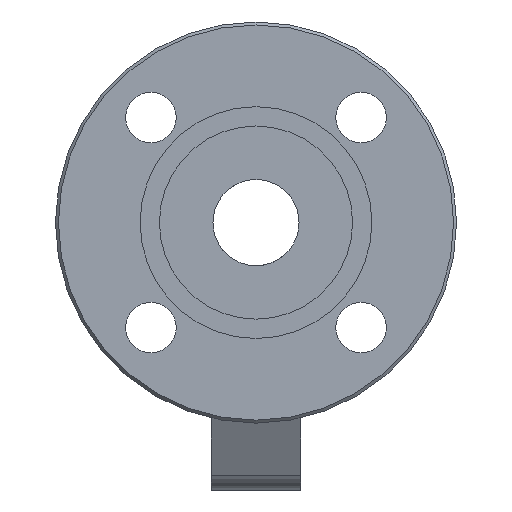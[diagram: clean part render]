
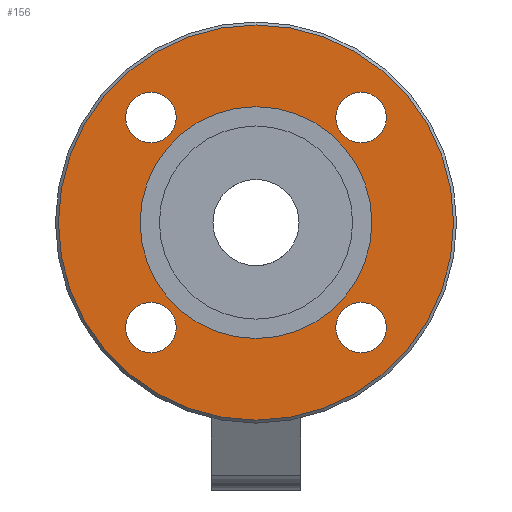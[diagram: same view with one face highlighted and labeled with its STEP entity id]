
A CAD part, left-side view. The second image highlights one B-rep face of the part: STEP entity #156.
In plain terms, the highlighted planar face has unit normal (-1, 0, 0).
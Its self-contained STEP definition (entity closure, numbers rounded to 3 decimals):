
#156=ADVANCED_FACE('',(#1229,#1231,#1233,#1235,#1237,#1239),#1241,.T.);
#1229=FACE_BOUND('',#1230,.T.);
#1230=EDGE_LOOP('',(#2138));
#1231=FACE_BOUND('',#1232,.T.);
#1232=EDGE_LOOP('',(#2139));
#1233=FACE_BOUND('',#1234,.T.);
#1234=EDGE_LOOP('',(#2140));
#1235=FACE_BOUND('',#1236,.T.);
#1236=EDGE_LOOP('',(#2141));
#1237=FACE_BOUND('',#1238,.T.);
#1238=EDGE_LOOP('',(#2142));
#1239=FACE_OUTER_BOUND('',#1240,.T.);
#1240=EDGE_LOOP('',(#2143));
#1241=PLANE('',#1242);
#1242=AXIS2_PLACEMENT_3D('',#1243,#1244,#1245);
#1243=CARTESIAN_POINT('',(-63.,0.,0.));
#1244=DIRECTION('',(-1.,0.,0.));
#1245=DIRECTION('',(0.,1.,0.));
#2138=ORIENTED_EDGE('',*,*,#2920,.T.);
#2139=ORIENTED_EDGE('',*,*,#2921,.T.);
#2140=ORIENTED_EDGE('',*,*,#2923,.T.);
#2141=ORIENTED_EDGE('',*,*,#2925,.T.);
#2142=ORIENTED_EDGE('',*,*,#2942,.T.);
#2143=ORIENTED_EDGE('',*,*,#2943,.T.);
#2920=EDGE_CURVE('',#3277,#3277,#3279,.T.);
#2921=EDGE_CURVE('',#3280,#3280,#3281,.T.);
#2923=EDGE_CURVE('',#3283,#3283,#3284,.T.);
#2925=EDGE_CURVE('',#3286,#3286,#3287,.T.);
#2942=EDGE_CURVE('',#3317,#3317,#3318,.T.);
#2943=EDGE_CURVE('',#3319,#3319,#3320,.T.);
#3277=VERTEX_POINT('',#4432);
#3279=CIRCLE('',#4436,8.5);
#3280=VERTEX_POINT('',#4440);
#3281=CIRCLE('',#4441,8.5);
#3283=VERTEX_POINT('',#4448);
#3284=CIRCLE('',#4449,8.5);
#3286=VERTEX_POINT('',#4456);
#3287=CIRCLE('',#4457,8.5);
#3317=VERTEX_POINT('',#4528);
#3318=CIRCLE('',#4529,39.);
#3319=VERTEX_POINT('',#4533);
#3320=CIRCLE('',#4534,66.5);
#4432=CARTESIAN_POINT('',(-63.,-35.355,43.855));
#4436=AXIS2_PLACEMENT_3D('',#4437,#4438,#4439);
#4437=CARTESIAN_POINT('',(-63.,-35.355,35.355));
#4438=DIRECTION('',(1.,0.,0.));
#4439=DIRECTION('',(0.,0.,1.));
#4440=CARTESIAN_POINT('',(-63.,-43.855,-35.355));
#4441=AXIS2_PLACEMENT_3D('',#4442,#4443,#4444);
#4442=CARTESIAN_POINT('',(-63.,-35.355,-35.355));
#4443=DIRECTION('',(1.,0.,0.));
#4444=DIRECTION('',(0.,-1.,0.));
#4448=CARTESIAN_POINT('',(-63.,35.355,-43.855));
#4449=AXIS2_PLACEMENT_3D('',#4450,#4451,#4452);
#4450=CARTESIAN_POINT('',(-63.,35.355,-35.355));
#4451=DIRECTION('',(1.,0.,0.));
#4452=DIRECTION('',(0.,0.,-1.));
#4456=CARTESIAN_POINT('',(-63.,43.855,35.355));
#4457=AXIS2_PLACEMENT_3D('',#4458,#4459,#4460);
#4458=CARTESIAN_POINT('',(-63.,35.355,35.355));
#4459=DIRECTION('',(1.,0.,0.));
#4460=DIRECTION('',(0.,1.,0.));
#4528=CARTESIAN_POINT('',(-63.,39.,0.));
#4529=AXIS2_PLACEMENT_3D('',#4530,#4531,#4532);
#4530=CARTESIAN_POINT('',(-63.,0.,0.));
#4531=DIRECTION('',(1.,0.,0.));
#4532=DIRECTION('',(0.,1.,0.));
#4533=CARTESIAN_POINT('',(-63.,66.5,0.));
#4534=AXIS2_PLACEMENT_3D('',#4535,#4536,#4537);
#4535=CARTESIAN_POINT('',(-63.,0.,0.));
#4536=DIRECTION('',(-1.,0.,0.));
#4537=DIRECTION('',(0.,1.,0.));
